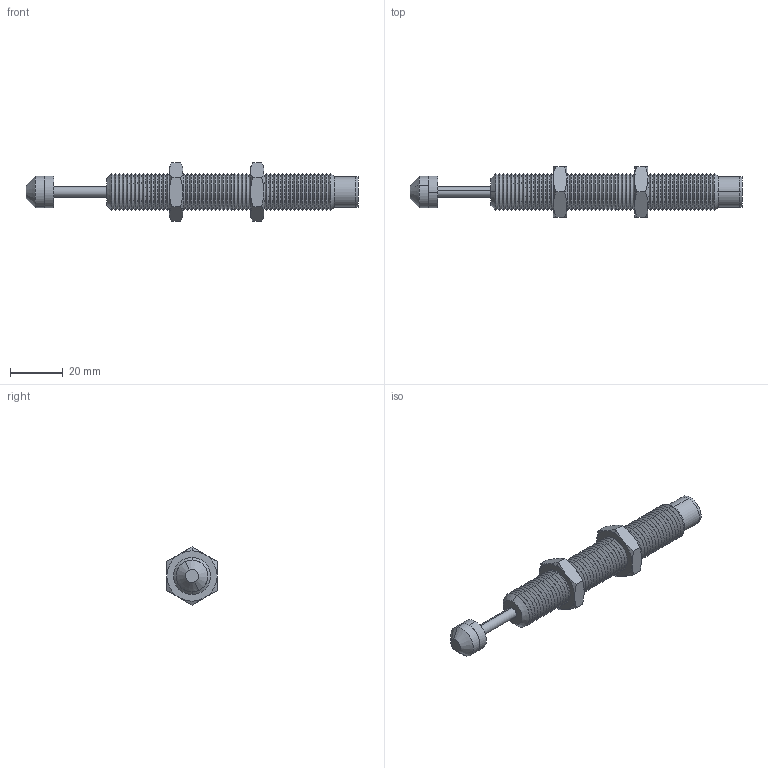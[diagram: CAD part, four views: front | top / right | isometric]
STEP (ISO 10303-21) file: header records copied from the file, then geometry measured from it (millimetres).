
FILE_DESCRIPTION (( 'STEP AP203' ), '1' );
FILE_NAME ('68002.W0199.step', '2017-02-27T15:55:30', ( 'User' ), ( '' ), 'SwSTEP 2.0', 'SolidWorks 2009', '' );
FILE_SCHEMA (( 'CONFIG_CONTROL_DESIGN' ));
Length unit declared in the file: millimetre
Products named in the file (8): Part5_68002.W0199; Part7_68002.W0199; Part6_68002.W0199; 68002.W0199; Part1_68002.W0199; Part2_68002.W0199; Part3_68002.W0199; Part4_68002.W0199
Assembly tree (8 placements, depth 2):
  68002.W0199
    Part6_68002.W0199  x2
    Part4_68002.W0199
    Part7_68002.W0199
    Part3_68002.W0199
    Part5_68002.W0199
    Part2_68002.W0199
    Part1_68002.W0199
Bounding box: 125.5 x 19 x 21.94 mm (x, y, z)
Volume: 14597.4 mm3; surface area: 11281.5 mm2
Topology: 8 solids, 8 shells, 327 faces, 660 edges, 352 vertices
Faces by surface type: cone 256, plane 43, cylinder 26, torus 2
Entity records: 8656 total; most frequent: DIRECTION 1512, CARTESIAN_POINT 1388, ORIENTED_EDGE 1216, AXIS2_PLACEMENT_3D 614, EDGE_CURVE 608, VERTEX_POINT 322, EDGE_LOOP 314, ADVANCED_FACE 303
